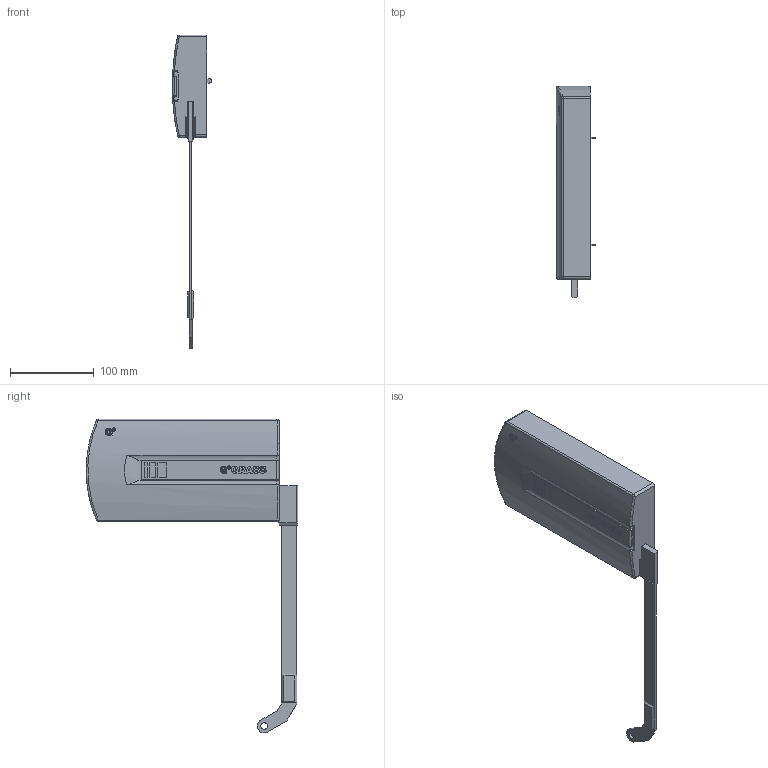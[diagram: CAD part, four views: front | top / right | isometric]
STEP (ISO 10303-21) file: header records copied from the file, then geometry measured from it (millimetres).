
FILE_DESCRIPTION (( 'STEP AP203' ), '1' );
FILE_NAME ('Kinvaro_F-20_Typ3_rechts_D2876012125~a.step', '2012-05-04T06:23:23', ( 'admin' ), ( 'Hewlett-Packard Company' ), 'SwSTEP 2.0', 'SolidWorks 2011', '' );
FILE_SCHEMA (( 'CONFIG_CONTROL_DESIGN' ));
Length unit declared in the file: millimetre
Products named in the file (1): Kinvaro_F-20_Typ3_rechts_D2876012125~a
Bounding box: 46.99 x 252.93 x 375.5 mm (x, y, z)
Volume: 1090432.3 mm3; surface area: 96610.7 mm2
Topology: 1 solids, 1 shells, 417 faces, 1151 edges, 755 vertices
Faces by surface type: cylinder 229, plane 172, torus 8, bspline 4, sphere 4
Entity records: 14118 total; most frequent: CARTESIAN_POINT 3462, ORIENTED_EDGE 2296, DIRECTION 2163, EDGE_CURVE 1148, AXIS2_PLACEMENT_3D 773, VERTEX_POINT 755, LINE 617, VECTOR 617
